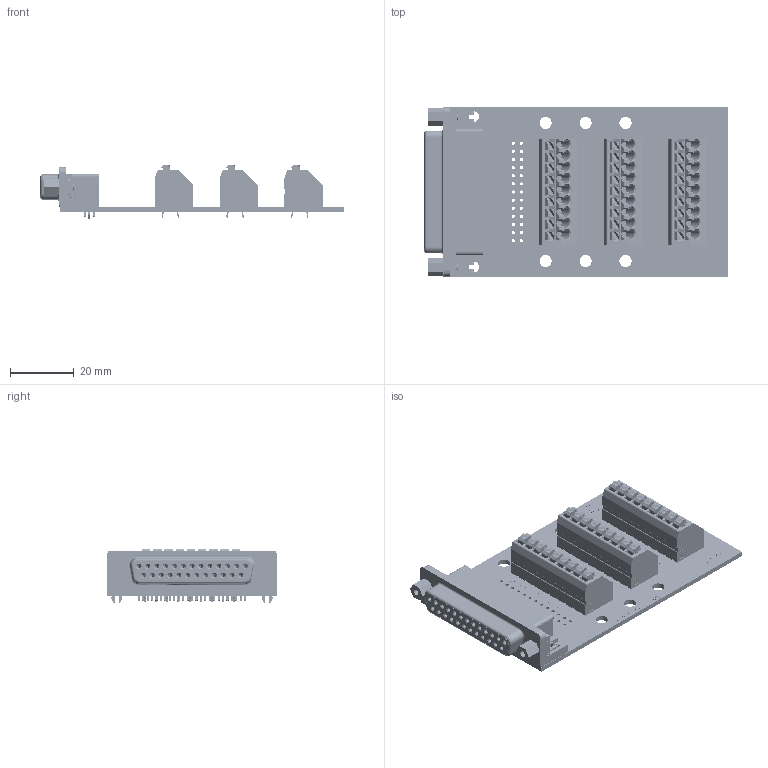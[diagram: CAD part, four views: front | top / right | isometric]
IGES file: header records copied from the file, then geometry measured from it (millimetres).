
Start section: SolidWorks IGES file using analytic representation for surfaces
Global section: file name: C:\Users\Jonny\Documents\Winford Engineering Jobs\BRKG25\BRKG25F\brkg25f-r-n_rev_a.igs; native system: SolidWorks 2017; preprocessor: SolidWorks 2017; author: Jonny; date: 171009.212345; units: inch
Bounding box: 94.88 x 53.34 x 16.9 mm (x, y, z)
Volume: 24497.7 mm3; surface area: 30928.2 mm2
Topology: 335 solids, 335 shells, 10808 faces, 26906 edges, 16811 vertices
Faces by surface type: plane 5429, bspline 3018, revolution 2361
